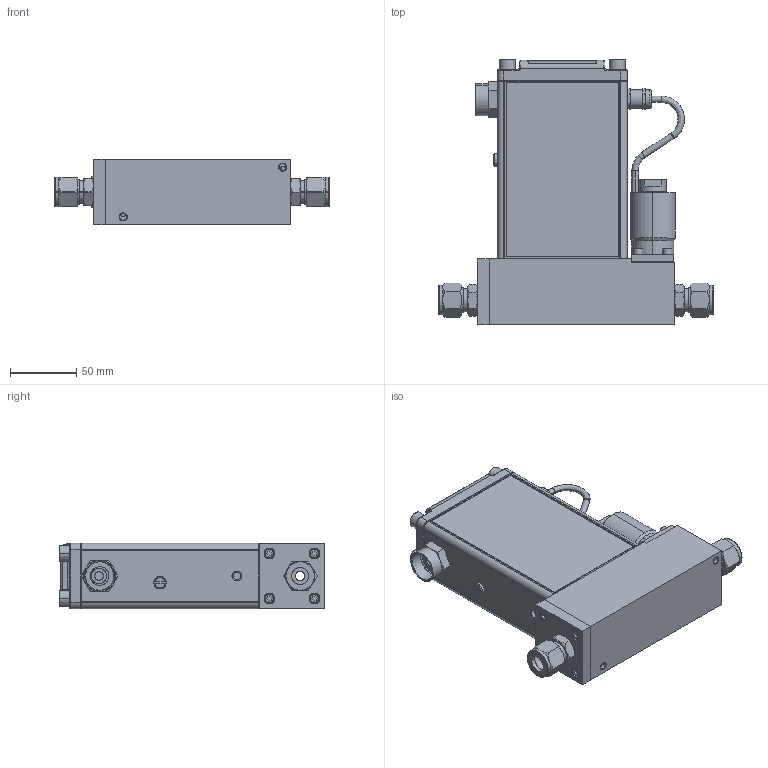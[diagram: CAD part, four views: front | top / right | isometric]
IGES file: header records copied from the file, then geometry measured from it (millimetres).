
Start section: SolidWorks IGES file using analytic representation for surfaces
Global section: file name: G:\Engineering\CAD MODELS FOR SALES\CAD MODEL STORAGE\SLA\SLAMF51\CUSTOMER FILES\IGES\SLAMF51-S-1P-1-K-REVB.IGS; native system: SolidWorks 2020; preprocessor: SolidWorks 2020; author: cfehr; date: 230524.155913; units: inch
Bounding box: 206.92 x 199.98 x 49.5 mm (x, y, z)
Surface area: 242605 mm2 (no closed solid volume)
Topology: 0 solids, 0 shells, 1213 faces, 17366 edges, 17357 vertices
Faces by surface type: bspline 607, revolution 606
